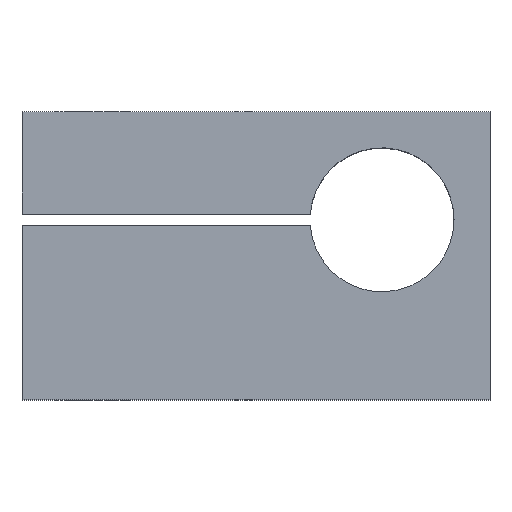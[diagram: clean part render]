
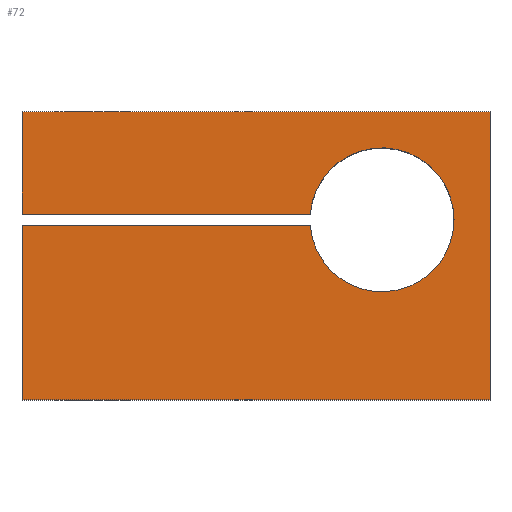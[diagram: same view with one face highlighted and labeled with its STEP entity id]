
A CAD part, top view. The second image highlights one B-rep face of the part: STEP entity #72.
In plain terms, the highlighted planar face has unit normal (0, 0, 1).
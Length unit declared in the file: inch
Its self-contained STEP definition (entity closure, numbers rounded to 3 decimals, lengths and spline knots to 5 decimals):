
#1 = CARTESIAN_POINT ( 'NONE',  ( -0.8125, -0.5, 0.75 ) ) ;
#5 = CARTESIAN_POINT ( 'NONE',  ( -0.8125, -0.5, 0.75 ) ) ;
#19 = DIRECTION ( 'NONE',  ( -1., 0., 0. ) ) ;
#28 = PLANE ( 'NONE',  #156 ) ;
#31 = LINE ( 'NONE', #265, #524 ) ;
#35 = LINE ( 'NONE', #209, #465 ) ;
#41 = VECTOR ( 'NONE', #550, 39.37008 ) ;
#46 = EDGE_LOOP ( 'NONE', ( #471, #381, #310, #137, #521, #303, #388, #287, #117 ) ) ;
#61 = VECTOR ( 'NONE', #19, 39.37008 ) ;
#68 = EDGE_CURVE ( 'NONE', #394, #317, #176, .T. ) ;
#72 = ADVANCED_FACE ( 'NONE', ( #204 ), #28, .F. ) ;
#82 = LINE ( 'NONE', #329, #543 ) ;
#83 = DIRECTION ( 'NONE',  ( 0., 0., 1. ) ) ;
#86 = CARTESIAN_POINT ( 'NONE',  ( -0.8125, 0.145, 0.75 ) ) ;
#92 = CARTESIAN_POINT ( 'NONE',  ( 0.6875, 0.125, 0.75 ) ) ;
#93 = CARTESIAN_POINT ( 'NONE',  ( 0.1883, 0.105, 0.75 ) ) ;
#117 = ORIENTED_EDGE ( 'NONE', *, *, #169, .T. ) ;
#127 = VERTEX_POINT ( 'NONE', #323 ) ;
#128 = CARTESIAN_POINT ( 'NONE',  ( 0., 0., 0.75 ) ) ;
#136 = EDGE_CURVE ( 'NONE', #362, #317, #527, .T. ) ;
#137 = ORIENTED_EDGE ( 'NONE', *, *, #513, .F. ) ;
#141 = EDGE_CURVE ( 'NONE', #127, #363, #151, .T. ) ;
#142 = VERTEX_POINT ( 'NONE', #479 ) ;
#150 = EDGE_CURVE ( 'NONE', #142, #297, #488, .T. ) ;
#151 = LINE ( 'NONE', #227, #41 ) ;
#156 = AXIS2_PLACEMENT_3D ( 'NONE', #128, #350, #226 ) ;
#158 = DIRECTION ( 'NONE',  ( 1., 0., 0. ) ) ;
#166 = DIRECTION ( 'NONE',  ( 1., 0., 0. ) ) ;
#169 = EDGE_CURVE ( 'NONE', #363, #362, #82, .T. ) ;
#176 = LINE ( 'NONE', #282, #61 ) ;
#199 = CARTESIAN_POINT ( 'NONE',  ( 0.8125, 0.5, 0.75 ) ) ;
#203 = EDGE_CURVE ( 'NONE', #297, #127, #35, .T. ) ;
#204 = FACE_OUTER_BOUND ( 'NONE', #46, .T. ) ;
#209 = CARTESIAN_POINT ( 'NONE',  ( -0.8125, -0.5, 0.75 ) ) ;
#217 = VECTOR ( 'NONE', #368, 39.37008 ) ;
#226 = DIRECTION ( 'NONE',  ( -1., 0., 0. ) ) ;
#227 = CARTESIAN_POINT ( 'NONE',  ( 0.8125, -0.5, 0.75 ) ) ;
#232 = EDGE_CURVE ( 'NONE', #142, #272, #31, .T. ) ;
#235 = DIRECTION ( 'NONE',  ( 0., 0., 1. ) ) ;
#244 = DIRECTION ( 'NONE',  ( 1., 0., 0. ) ) ;
#265 = CARTESIAN_POINT ( 'NONE',  ( -0.8125, 0.105, 0.75 ) ) ;
#272 = VERTEX_POINT ( 'NONE', #93 ) ;
#274 = CARTESIAN_POINT ( 'NONE',  ( 0.4375, 0.125, 0.75 ) ) ;
#282 = CARTESIAN_POINT ( 'NONE',  ( -0.8125, 0.145, 0.75 ) ) ;
#287 = ORIENTED_EDGE ( 'NONE', *, *, #141, .T. ) ;
#297 = VERTEX_POINT ( 'NONE', #5 ) ;
#300 = CARTESIAN_POINT ( 'NONE',  ( 0.4375, 0.125, 0.75 ) ) ;
#303 = ORIENTED_EDGE ( 'NONE', *, *, #150, .T. ) ;
#308 = VERTEX_POINT ( 'NONE', #92 ) ;
#310 = ORIENTED_EDGE ( 'NONE', *, *, #462, .F. ) ;
#316 = AXIS2_PLACEMENT_3D ( 'NONE', #300, #83, #244 ) ;
#317 = VERTEX_POINT ( 'NONE', #86 ) ;
#318 = CARTESIAN_POINT ( 'NONE',  ( -0.8125, -0.5, 0.75 ) ) ;
#323 = CARTESIAN_POINT ( 'NONE',  ( 0.8125, -0.5, 0.75 ) ) ;
#329 = CARTESIAN_POINT ( 'NONE',  ( -0.8125, 0.5, 0.75 ) ) ;
#343 = VECTOR ( 'NONE', #501, 39.37008 ) ;
#350 = DIRECTION ( 'NONE',  ( 0., 0., -1. ) ) ;
#362 = VERTEX_POINT ( 'NONE', #468 ) ;
#363 = VERTEX_POINT ( 'NONE', #199 ) ;
#368 = DIRECTION ( 'NONE',  ( 0., -1., 0. ) ) ;
#381 = ORIENTED_EDGE ( 'NONE', *, *, #68, .F. ) ;
#388 = ORIENTED_EDGE ( 'NONE', *, *, #203, .T. ) ;
#394 = VERTEX_POINT ( 'NONE', #540 ) ;
#423 = CIRCLE ( 'NONE', #498, 0.25 ) ;
#428 = CIRCLE ( 'NONE', #316, 0.25 ) ;
#448 = DIRECTION ( 'NONE',  ( 1., 0., 0. ) ) ;
#455 = DIRECTION ( 'NONE',  ( -1., 0., 0. ) ) ;
#462 = EDGE_CURVE ( 'NONE', #308, #394, #428, .T. ) ;
#465 = VECTOR ( 'NONE', #448, 39.37008 ) ;
#468 = CARTESIAN_POINT ( 'NONE',  ( -0.8125, 0.5, 0.75 ) ) ;
#471 = ORIENTED_EDGE ( 'NONE', *, *, #136, .T. ) ;
#479 = CARTESIAN_POINT ( 'NONE',  ( -0.8125, 0.105, 0.75 ) ) ;
#488 = LINE ( 'NONE', #318, #217 ) ;
#498 = AXIS2_PLACEMENT_3D ( 'NONE', #274, #235, #166 ) ;
#501 = DIRECTION ( 'NONE',  ( 0., -1., 0. ) ) ;
#513 = EDGE_CURVE ( 'NONE', #272, #308, #423, .T. ) ;
#521 = ORIENTED_EDGE ( 'NONE', *, *, #232, .F. ) ;
#524 = VECTOR ( 'NONE', #158, 39.37008 ) ;
#527 = LINE ( 'NONE', #1, #343 ) ;
#540 = CARTESIAN_POINT ( 'NONE',  ( 0.1883, 0.145, 0.75 ) ) ;
#543 = VECTOR ( 'NONE', #455, 39.37008 ) ;
#550 = DIRECTION ( 'NONE',  ( 0., 1., 0. ) ) ;
